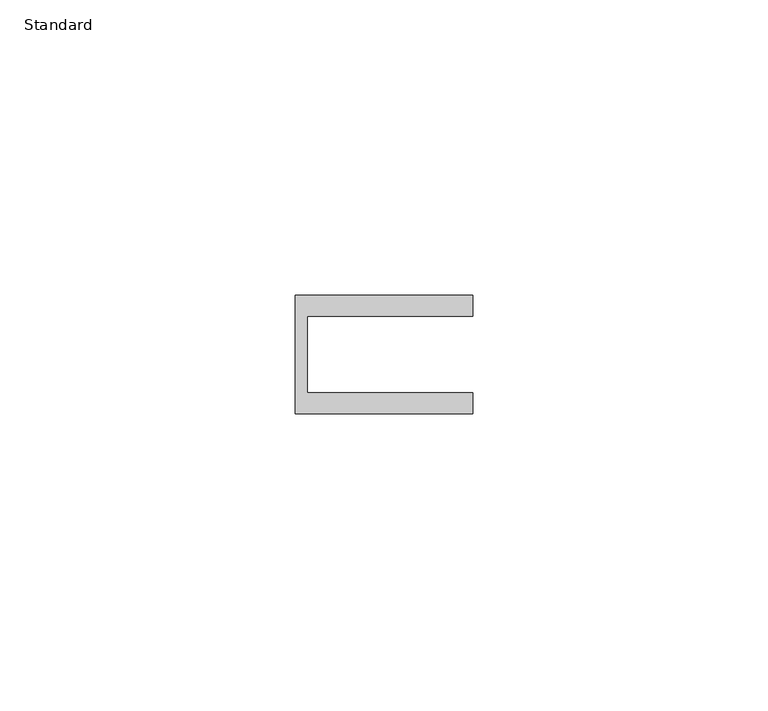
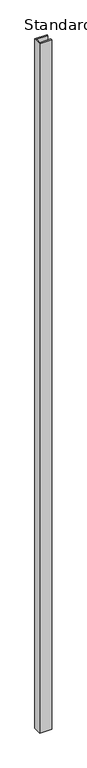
"""IFC4 building model written with IfcOpenShell, lengths in millimetres: furniture geometry, X_Partition-Channel-Duracube-End : Standard."""

from ifc_helpers import new_model, si_unit, frame, origin, place, context, project, spatial, polyline, outline, extrude, source, transform, mapped, element, save


def standard_caf870ac(model_context):
    return source(origin(), model_context, "Body", "SweptSolid", [
        extrude(outline(polyline([(31.7003264, 0.0), (31.7003264, -13.0), (59.7003264, -13.0), (59.7003264, -16.5), (29.7003264, -16.5), (29.7003264, 3.5), (59.7003264, 3.5), (59.7003264, 0.0), (31.7003264, 0.0)])), frame((0.0, 0.0, 200.0), z_axis=(0.0, 0.0, 1.0), x_axis=(1.0, 0.0, 0.0)), (0.0, 0.0, 1.0), 1799.0),
    ])


if __name__ == "__main__":
    model = new_model("IFC4")
    model_context = context("Model", 3, world=origin())
    ifc_project = project(units=[si_unit("LENGTHUNIT", "METRE", prefix="MILLI")], contexts=[model_context])
    site = spatial("IfcSite", under=ifc_project)
    building = spatial("IfcBuilding", under=site)
    placement = place(None, origin())
    standard_shape = standard_caf870ac(model_context)
    element("IfcFurniture", 1, ObjectType="X_Partition-Channel-Duracube-End : Standard", at=placement, inside=building, context=model_context, shape_type="MappedRepresentation", body=[
        mapped(standard_shape, transform((0.0, 0.0, 0.0), x_axis=(1.0, 0.0, 0.0), y_axis=(0.0, 1.0, 0.0), z_axis=(0.0, 0.0, 1.0))),
    ])
    save(model, "model.ifc")
